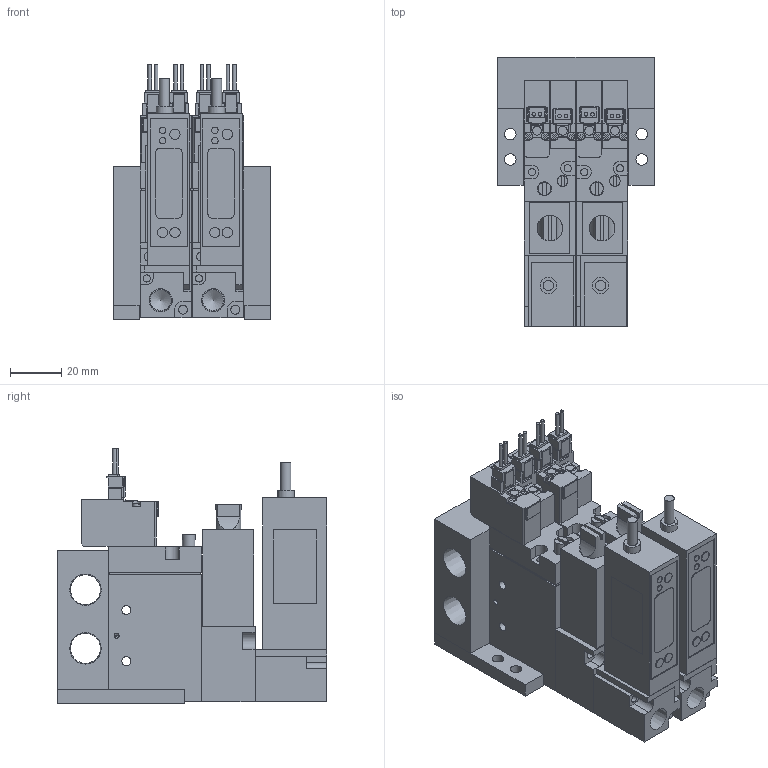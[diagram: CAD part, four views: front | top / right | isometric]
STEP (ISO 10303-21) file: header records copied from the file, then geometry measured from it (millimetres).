
FILE_DESCRIPTION(('STEP AP203'),'1');
FILE_NAME('BMPV32M2NV(R)G25AL202.stp','2025-06-17T00:45:13',(' '),(' '),'Spatial InterOp 3D',' ',' ');
FILE_SCHEMA(('CONFIG_CONTROL_DESIGN'));
Length unit declared in the file: millimetre
Products named in the file (28): BMPV32M2NV(R)G25AL202; Pressure sensor VGL; ___-3(Rc); Filter Assy; __; _____; ___ ___; MB BRACKET; BMPV32 MB02; ___; upper plate-A; ______; ____; VACUUM VALVE FUNCTION MPV42-A; UV280-4E
Assembly tree (27 placements, depth 2):
  BMPV32M2NV(R)G25AL202
    Pressure sensor VGL
    ___-3(Rc)
    Filter Assy
    __
    _____
    ___ ___
    MB BRACKET
    MB BRACKET
    BMPV32 MB02
    Pressure sensor VGL
    ___-3(Rc)
    Filter Assy
    __
    _____
    ___ ___
    ___
    upper plate-A
    ______
    ____
    VACUUM VALVE FUNCTION MPV42-A
    ___
    upper plate-A
    ______
    ____
    VACUUM VALVE FUNCTION MPV42-A
    UV280-4E
    UV280-4E
Bounding box: 61.5 x 105.5 x 99.75 mm (x, y, z)
Volume: 280212.7 mm3; surface area: 93143.3 mm2
Topology: 27 solids, 27 shells, 835 faces, 2152 edges, 1428 vertices
Faces by surface type: plane 655, cylinder 158, cone 22
Full cylindrical faces by diameter (mm): 1.4 x8, 1.8 x4, 2 x4, 2.5 x12, 2.8 x8, 3 x8, 3.5 x24, 4 x10, 4.2 x2, 4.5 x4, 5 x2, 5.5 x2, 6.5 x8, 8.2 x2, 8.759 x2, 11.776 x2
Entity records: 25888 total; most frequent: CARTESIAN_POINT 4385, DIRECTION 4080, ORIENTED_EDGE 3956, EDGE_CURVE 1978, LINE 1586, VECTOR 1586, VERTEX_POINT 1396, AXIS2_PLACEMENT_3D 1247
